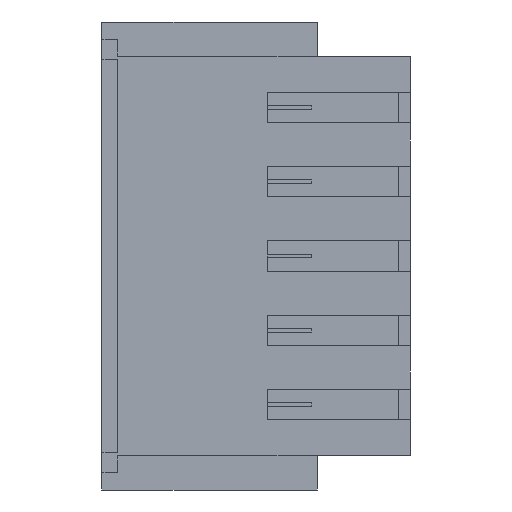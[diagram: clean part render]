
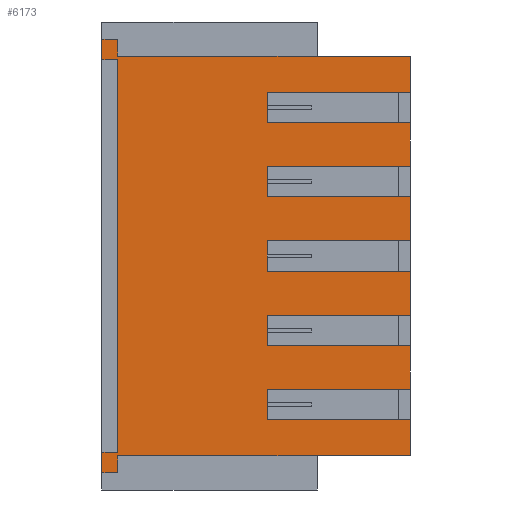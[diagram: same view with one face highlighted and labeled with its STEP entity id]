
A CAD part, left-side view. The second image highlights one B-rep face of the part: STEP entity #6173.
In plain terms, the highlighted planar face has unit normal (-1, 0, 0).
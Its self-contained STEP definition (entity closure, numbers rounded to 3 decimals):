
#688=CARTESIAN_POINT('Vertex',(0.,0.,5.38)) ;
#723=CARTESIAN_POINT('Vertex',(0.,7.87,5.38)) ;
#726=CARTESIAN_POINT('Line Origine',(0.,3.935,5.38)) ;
#851=CARTESIAN_POINT('Vertex',(0.,7.87,5.83)) ;
#858=CARTESIAN_POINT('Vertex',(0.,8.3,5.83)) ;
#861=CARTESIAN_POINT('Line Origine',(0.,8.085,5.83)) ;
#884=CARTESIAN_POINT('Vertex',(0.,7.87,5.29)) ;
#887=CARTESIAN_POINT('Line Origine',(0.,8.085,5.29)) ;
#891=CARTESIAN_POINT('Vertex',(0.,8.3,5.29)) ;
#953=CARTESIAN_POINT('Vertex',(0.,8.3,-5.29)) ;
#956=CARTESIAN_POINT('Line Origine',(0.,8.085,-5.29)) ;
#960=CARTESIAN_POINT('Vertex',(0.,7.87,-5.29)) ;
#980=CARTESIAN_POINT('Line Origine',(0.,8.085,-5.83)) ;
#984=CARTESIAN_POINT('Vertex',(0.,8.3,-5.83)) ;
#986=CARTESIAN_POINT('Vertex',(0.,7.87,-5.83)) ;
#1119=CARTESIAN_POINT('Line Origine',(0.,3.935,-5.38)) ;
#1123=CARTESIAN_POINT('Vertex',(0.,7.87,-5.38)) ;
#1125=CARTESIAN_POINT('Vertex',(0.,0.,-5.38)) ;
#4081=CARTESIAN_POINT('Line Origine',(0.,7.87,5.605)) ;
#4105=CARTESIAN_POINT('Line Origine',(0.,7.87,-5.605)) ;
#4117=CARTESIAN_POINT('Line Origine',(0.,7.87,0.)) ;
#4142=CARTESIAN_POINT('Vertex',(0.,0.,4.41)) ;
#4145=CARTESIAN_POINT('Line Origine',(0.,1.925,4.41)) ;
#4149=CARTESIAN_POINT('Vertex',(0.,3.85,4.41)) ;
#4171=CARTESIAN_POINT('Line Origine',(0.,3.85,4.)) ;
#4175=CARTESIAN_POINT('Vertex',(0.,3.85,3.59)) ;
#4190=CARTESIAN_POINT('Line Origine',(0.,1.925,3.59)) ;
#4194=CARTESIAN_POINT('Vertex',(0.,0.,3.59)) ;
#4238=CARTESIAN_POINT('Vertex',(0.,0.,2.41)) ;
#4241=CARTESIAN_POINT('Line Origine',(0.,1.925,2.41)) ;
#4245=CARTESIAN_POINT('Vertex',(0.,3.85,2.41)) ;
#4267=CARTESIAN_POINT('Line Origine',(0.,3.85,2.)) ;
#4271=CARTESIAN_POINT('Vertex',(0.,3.85,1.59)) ;
#4286=CARTESIAN_POINT('Line Origine',(0.,1.925,1.59)) ;
#4290=CARTESIAN_POINT('Vertex',(0.,0.,1.59)) ;
#4334=CARTESIAN_POINT('Vertex',(0.,0.,0.41)) ;
#4337=CARTESIAN_POINT('Line Origine',(0.,1.925,0.41)) ;
#4341=CARTESIAN_POINT('Vertex',(0.,3.85,0.41)) ;
#4363=CARTESIAN_POINT('Line Origine',(0.,3.85,0.)) ;
#4367=CARTESIAN_POINT('Vertex',(0.,3.85,-0.41)) ;
#4382=CARTESIAN_POINT('Line Origine',(0.,1.925,-0.41)) ;
#4386=CARTESIAN_POINT('Vertex',(0.,0.,-0.41)) ;
#4430=CARTESIAN_POINT('Vertex',(0.,0.,-1.59)) ;
#4433=CARTESIAN_POINT('Line Origine',(0.,1.925,-1.59)) ;
#4437=CARTESIAN_POINT('Vertex',(0.,3.85,-1.59)) ;
#4459=CARTESIAN_POINT('Line Origine',(0.,3.85,-2.)) ;
#4463=CARTESIAN_POINT('Vertex',(0.,3.85,-2.41)) ;
#4478=CARTESIAN_POINT('Line Origine',(0.,1.925,-2.41)) ;
#4482=CARTESIAN_POINT('Vertex',(0.,0.,-2.41)) ;
#5711=CARTESIAN_POINT('Line Origine',(0.,8.3,-5.56)) ;
#5716=CARTESIAN_POINT('Line Origine',(0.,8.3,5.56)) ;
#6081=CARTESIAN_POINT('Axis2P3D Location',(0.,0.,0.)) ;
#6086=CARTESIAN_POINT('Line Origine',(0.,1.925,-4.41)) ;
#6090=CARTESIAN_POINT('Vertex',(0.,0.,-4.41)) ;
#6092=CARTESIAN_POINT('Vertex',(0.,3.85,-4.41)) ;
#6095=CARTESIAN_POINT('Line Origine',(0.,3.85,-4.)) ;
#6099=CARTESIAN_POINT('Vertex',(0.,3.85,-3.59)) ;
#6102=CARTESIAN_POINT('Line Origine',(0.,1.925,-3.59)) ;
#6106=CARTESIAN_POINT('Vertex',(0.,0.,-3.59)) ;
#6109=CARTESIAN_POINT('Line Origine',(0.,0.,-3.)) ;
#6114=CARTESIAN_POINT('Line Origine',(0.,0.,-1.)) ;
#6119=CARTESIAN_POINT('Line Origine',(0.,0.,1.)) ;
#6124=CARTESIAN_POINT('Line Origine',(0.,0.,3.)) ;
#6129=CARTESIAN_POINT('Line Origine',(0.,0.,4.895)) ;
#6134=CARTESIAN_POINT('Line Origine',(0.,0.,-4.895)) ;
#727=DIRECTION('Vector Direction',(0.,-1.,0.)) ;
#862=DIRECTION('Vector Direction',(0.,-1.,0.)) ;
#888=DIRECTION('Vector Direction',(0.,-1.,0.)) ;
#957=DIRECTION('Vector Direction',(0.,-1.,0.)) ;
#981=DIRECTION('Vector Direction',(0.,-1.,0.)) ;
#1120=DIRECTION('Vector Direction',(0.,-1.,0.)) ;
#4082=DIRECTION('Vector Direction',(0.,0.,1.)) ;
#4106=DIRECTION('Vector Direction',(0.,0.,-1.)) ;
#4118=DIRECTION('Vector Direction',(0.,0.,1.)) ;
#4146=DIRECTION('Vector Direction',(0.,1.,0.)) ;
#4172=DIRECTION('Vector Direction',(0.,0.,-1.)) ;
#4191=DIRECTION('Vector Direction',(0.,1.,0.)) ;
#4242=DIRECTION('Vector Direction',(0.,1.,0.)) ;
#4268=DIRECTION('Vector Direction',(0.,0.,-1.)) ;
#4287=DIRECTION('Vector Direction',(0.,1.,0.)) ;
#4338=DIRECTION('Vector Direction',(0.,1.,0.)) ;
#4364=DIRECTION('Vector Direction',(0.,0.,-1.)) ;
#4383=DIRECTION('Vector Direction',(0.,1.,0.)) ;
#4434=DIRECTION('Vector Direction',(0.,1.,0.)) ;
#4460=DIRECTION('Vector Direction',(0.,0.,-1.)) ;
#4479=DIRECTION('Vector Direction',(0.,1.,0.)) ;
#5712=DIRECTION('Vector Direction',(0.,0.,-1.)) ;
#5717=DIRECTION('Vector Direction',(0.,0.,1.)) ;
#6082=DIRECTION('Axis2P3D Direction',(1.,0.,0.)) ;
#6083=DIRECTION('Axis2P3D XDirection',(0.,1.,0.)) ;
#6087=DIRECTION('Vector Direction',(0.,1.,0.)) ;
#6096=DIRECTION('Vector Direction',(0.,0.,-1.)) ;
#6103=DIRECTION('Vector Direction',(0.,1.,0.)) ;
#6110=DIRECTION('Vector Direction',(0.,0.,1.)) ;
#6115=DIRECTION('Vector Direction',(0.,0.,1.)) ;
#6120=DIRECTION('Vector Direction',(0.,0.,1.)) ;
#6125=DIRECTION('Vector Direction',(0.,0.,1.)) ;
#6130=DIRECTION('Vector Direction',(0.,0.,1.)) ;
#6135=DIRECTION('Vector Direction',(0.,0.,1.)) ;
#6084=AXIS2_PLACEMENT_3D('Plane Axis2P3D',#6081,#6082,#6083) ;
#6140=ORIENTED_EDGE('',*,*,#6094,.T.) ;
#6141=ORIENTED_EDGE('',*,*,#6101,.F.) ;
#6142=ORIENTED_EDGE('',*,*,#6108,.F.) ;
#6143=ORIENTED_EDGE('',*,*,#6113,.T.) ;
#6144=ORIENTED_EDGE('',*,*,#4484,.T.) ;
#6145=ORIENTED_EDGE('',*,*,#4465,.F.) ;
#6146=ORIENTED_EDGE('',*,*,#4439,.F.) ;
#6147=ORIENTED_EDGE('',*,*,#6118,.T.) ;
#6148=ORIENTED_EDGE('',*,*,#4388,.T.) ;
#6149=ORIENTED_EDGE('',*,*,#4369,.F.) ;
#6150=ORIENTED_EDGE('',*,*,#4343,.F.) ;
#6151=ORIENTED_EDGE('',*,*,#6123,.T.) ;
#6152=ORIENTED_EDGE('',*,*,#4292,.T.) ;
#6153=ORIENTED_EDGE('',*,*,#4273,.F.) ;
#6154=ORIENTED_EDGE('',*,*,#4247,.F.) ;
#6155=ORIENTED_EDGE('',*,*,#6128,.T.) ;
#6156=ORIENTED_EDGE('',*,*,#4196,.T.) ;
#6157=ORIENTED_EDGE('',*,*,#4177,.F.) ;
#6158=ORIENTED_EDGE('',*,*,#4151,.F.) ;
#6159=ORIENTED_EDGE('',*,*,#6133,.T.) ;
#6160=ORIENTED_EDGE('',*,*,#730,.F.) ;
#6161=ORIENTED_EDGE('',*,*,#4085,.F.) ;
#6162=ORIENTED_EDGE('',*,*,#865,.F.) ;
#6163=ORIENTED_EDGE('',*,*,#5720,.T.) ;
#6164=ORIENTED_EDGE('',*,*,#893,.T.) ;
#6165=ORIENTED_EDGE('',*,*,#4121,.F.) ;
#6166=ORIENTED_EDGE('',*,*,#962,.F.) ;
#6167=ORIENTED_EDGE('',*,*,#5715,.F.) ;
#6168=ORIENTED_EDGE('',*,*,#988,.T.) ;
#6169=ORIENTED_EDGE('',*,*,#4109,.T.) ;
#6170=ORIENTED_EDGE('',*,*,#1127,.T.) ;
#6171=ORIENTED_EDGE('',*,*,#6138,.T.) ;
#728=VECTOR('Line Direction',#727,1.) ;
#863=VECTOR('Line Direction',#862,1.) ;
#889=VECTOR('Line Direction',#888,1.) ;
#958=VECTOR('Line Direction',#957,1.) ;
#982=VECTOR('Line Direction',#981,1.) ;
#1121=VECTOR('Line Direction',#1120,1.) ;
#4083=VECTOR('Line Direction',#4082,1.) ;
#4107=VECTOR('Line Direction',#4106,1.) ;
#4119=VECTOR('Line Direction',#4118,1.) ;
#4147=VECTOR('Line Direction',#4146,1.) ;
#4173=VECTOR('Line Direction',#4172,1.) ;
#4192=VECTOR('Line Direction',#4191,1.) ;
#4243=VECTOR('Line Direction',#4242,1.) ;
#4269=VECTOR('Line Direction',#4268,1.) ;
#4288=VECTOR('Line Direction',#4287,1.) ;
#4339=VECTOR('Line Direction',#4338,1.) ;
#4365=VECTOR('Line Direction',#4364,1.) ;
#4384=VECTOR('Line Direction',#4383,1.) ;
#4435=VECTOR('Line Direction',#4434,1.) ;
#4461=VECTOR('Line Direction',#4460,1.) ;
#4480=VECTOR('Line Direction',#4479,1.) ;
#5713=VECTOR('Line Direction',#5712,1.) ;
#5718=VECTOR('Line Direction',#5717,1.) ;
#6088=VECTOR('Line Direction',#6087,1.) ;
#6097=VECTOR('Line Direction',#6096,1.) ;
#6104=VECTOR('Line Direction',#6103,1.) ;
#6111=VECTOR('Line Direction',#6110,1.) ;
#6116=VECTOR('Line Direction',#6115,1.) ;
#6121=VECTOR('Line Direction',#6120,1.) ;
#6126=VECTOR('Line Direction',#6125,1.) ;
#6131=VECTOR('Line Direction',#6130,1.) ;
#6136=VECTOR('Line Direction',#6135,1.) ;
#6173=ADVANCED_FACE('\X2\96F64EF651E04F554F53\X0\',(#6172),#6085,.F.) ;
#730=EDGE_CURVE('',#724,#689,#729,.T.) ;
#865=EDGE_CURVE('',#859,#852,#864,.T.) ;
#893=EDGE_CURVE('',#892,#885,#890,.T.) ;
#962=EDGE_CURVE('',#954,#961,#959,.T.) ;
#988=EDGE_CURVE('',#985,#987,#983,.T.) ;
#1127=EDGE_CURVE('',#1124,#1126,#1122,.T.) ;
#4085=EDGE_CURVE('',#852,#724,#4084,.F.) ;
#4109=EDGE_CURVE('',#987,#1124,#4108,.F.) ;
#4121=EDGE_CURVE('',#961,#885,#4120,.T.) ;
#4151=EDGE_CURVE('',#4143,#4150,#4148,.T.) ;
#4177=EDGE_CURVE('',#4150,#4176,#4174,.T.) ;
#4196=EDGE_CURVE('',#4195,#4176,#4193,.T.) ;
#4247=EDGE_CURVE('',#4239,#4246,#4244,.T.) ;
#4273=EDGE_CURVE('',#4246,#4272,#4270,.T.) ;
#4292=EDGE_CURVE('',#4291,#4272,#4289,.T.) ;
#4343=EDGE_CURVE('',#4335,#4342,#4340,.T.) ;
#4369=EDGE_CURVE('',#4342,#4368,#4366,.T.) ;
#4388=EDGE_CURVE('',#4387,#4368,#4385,.T.) ;
#4439=EDGE_CURVE('',#4431,#4438,#4436,.T.) ;
#4465=EDGE_CURVE('',#4438,#4464,#4462,.T.) ;
#4484=EDGE_CURVE('',#4483,#4464,#4481,.T.) ;
#5715=EDGE_CURVE('',#985,#954,#5714,.F.) ;
#5720=EDGE_CURVE('',#859,#892,#5719,.F.) ;
#6094=EDGE_CURVE('',#6091,#6093,#6089,.T.) ;
#6101=EDGE_CURVE('',#6100,#6093,#6098,.T.) ;
#6108=EDGE_CURVE('',#6107,#6100,#6105,.T.) ;
#6113=EDGE_CURVE('',#6107,#4483,#6112,.T.) ;
#6118=EDGE_CURVE('',#4431,#4387,#6117,.T.) ;
#6123=EDGE_CURVE('',#4335,#4291,#6122,.T.) ;
#6128=EDGE_CURVE('',#4239,#4195,#6127,.T.) ;
#6133=EDGE_CURVE('',#4143,#689,#6132,.T.) ;
#6138=EDGE_CURVE('',#1126,#6091,#6137,.T.) ;
#6139=EDGE_LOOP('',(#6140,#6141,#6142,#6143,#6144,#6145,#6146,#6147,#6148,#6149,#6150,#6151,#6152,#6153,#6154,#6155,#6156,#6157,#6158,#6159,#6160,#6161,#6162,#6163,#6164,#6165,#6166,#6167,#6168,#6169,#6170,#6171)) ;
#6172=FACE_OUTER_BOUND('',#6139,.T.) ;
#729=LINE('Line',#726,#728) ;
#864=LINE('Line',#861,#863) ;
#890=LINE('Line',#887,#889) ;
#959=LINE('Line',#956,#958) ;
#983=LINE('Line',#980,#982) ;
#1122=LINE('Line',#1119,#1121) ;
#4084=LINE('Line',#4081,#4083) ;
#4108=LINE('Line',#4105,#4107) ;
#4120=LINE('Line',#4117,#4119) ;
#4148=LINE('Line',#4145,#4147) ;
#4174=LINE('Line',#4171,#4173) ;
#4193=LINE('Line',#4190,#4192) ;
#4244=LINE('Line',#4241,#4243) ;
#4270=LINE('Line',#4267,#4269) ;
#4289=LINE('Line',#4286,#4288) ;
#4340=LINE('Line',#4337,#4339) ;
#4366=LINE('Line',#4363,#4365) ;
#4385=LINE('Line',#4382,#4384) ;
#4436=LINE('Line',#4433,#4435) ;
#4462=LINE('Line',#4459,#4461) ;
#4481=LINE('Line',#4478,#4480) ;
#5714=LINE('Line',#5711,#5713) ;
#5719=LINE('Line',#5716,#5718) ;
#6089=LINE('Line',#6086,#6088) ;
#6098=LINE('Line',#6095,#6097) ;
#6105=LINE('Line',#6102,#6104) ;
#6112=LINE('Line',#6109,#6111) ;
#6117=LINE('Line',#6114,#6116) ;
#6122=LINE('Line',#6119,#6121) ;
#6127=LINE('Line',#6124,#6126) ;
#6132=LINE('Line',#6129,#6131) ;
#6137=LINE('Line',#6134,#6136) ;
#6085=PLANE('Plane',#6084) ;
#689=VERTEX_POINT('',#688) ;
#724=VERTEX_POINT('',#723) ;
#852=VERTEX_POINT('',#851) ;
#859=VERTEX_POINT('',#858) ;
#885=VERTEX_POINT('',#884) ;
#892=VERTEX_POINT('',#891) ;
#954=VERTEX_POINT('',#953) ;
#961=VERTEX_POINT('',#960) ;
#985=VERTEX_POINT('',#984) ;
#987=VERTEX_POINT('',#986) ;
#1124=VERTEX_POINT('',#1123) ;
#1126=VERTEX_POINT('',#1125) ;
#4143=VERTEX_POINT('',#4142) ;
#4150=VERTEX_POINT('',#4149) ;
#4176=VERTEX_POINT('',#4175) ;
#4195=VERTEX_POINT('',#4194) ;
#4239=VERTEX_POINT('',#4238) ;
#4246=VERTEX_POINT('',#4245) ;
#4272=VERTEX_POINT('',#4271) ;
#4291=VERTEX_POINT('',#4290) ;
#4335=VERTEX_POINT('',#4334) ;
#4342=VERTEX_POINT('',#4341) ;
#4368=VERTEX_POINT('',#4367) ;
#4387=VERTEX_POINT('',#4386) ;
#4431=VERTEX_POINT('',#4430) ;
#4438=VERTEX_POINT('',#4437) ;
#4464=VERTEX_POINT('',#4463) ;
#4483=VERTEX_POINT('',#4482) ;
#6091=VERTEX_POINT('',#6090) ;
#6093=VERTEX_POINT('',#6092) ;
#6100=VERTEX_POINT('',#6099) ;
#6107=VERTEX_POINT('',#6106) ;
